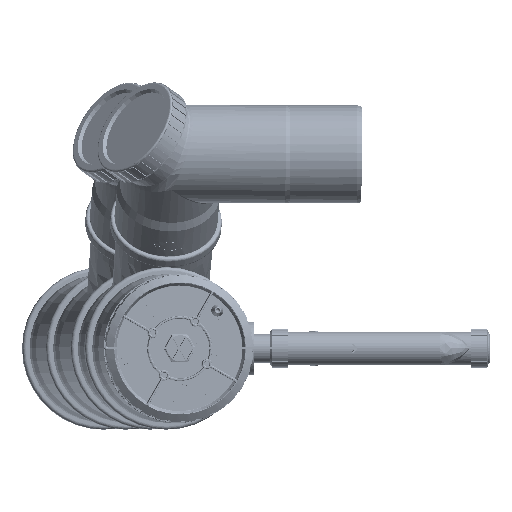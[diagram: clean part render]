
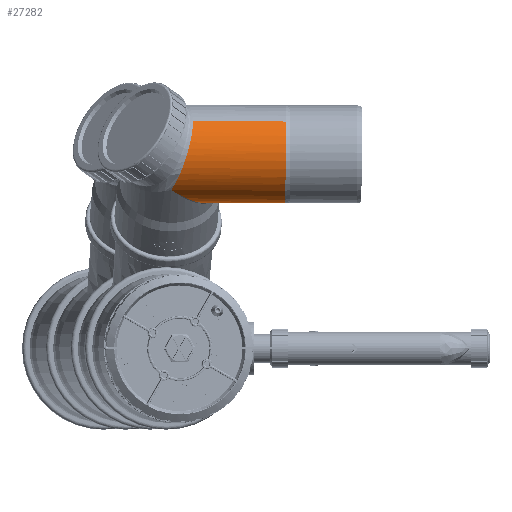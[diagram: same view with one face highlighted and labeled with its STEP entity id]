
A CAD part, left-side view. The second image highlights one B-rep face of the part: STEP entity #27282.
In plain terms, the highlighted cylindrical face has radius 55 mm (diameter 110 mm), a partial arc.
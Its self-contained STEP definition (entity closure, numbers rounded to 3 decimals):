
#14106=CARTESIAN_POINT('',(-191.802,55.,
0.));
#14111=DIRECTION('',(-1.,0.,0.));
#14112=VECTOR('',#14111,73.435);
#14113=CARTESIAN_POINT('',(-118.368,55.,0.));
#14114=LINE('5450',#14113,#14112);
#14132=CARTESIAN_POINT('',(-118.368,0.,0.));
#14133=DIRECTION('',(1.,0.,0.));
#14134=DIRECTION('',(0.,-1.,0.));
#14135=AXIS2_PLACEMENT_3D('',#14132,#14133,#14134);
#14140=CARTESIAN_POINT('',(-191.802,55.,
0.));
#14141=CARTESIAN_POINT('',(-191.803,55.,
-2.301));
#14142=CARTESIAN_POINT('',(-192.09,54.71,
-6.963));
#14143=CARTESIAN_POINT('',(-193.436,53.353,
-13.998));
#14144=CARTESIAN_POINT('',(-195.758,51.012,
-21.021));
#14145=CARTESIAN_POINT('',(-199.196,47.548,
-28.033));
#14146=CARTESIAN_POINT('',(-203.895,42.811,
-34.881));
#14147=CARTESIAN_POINT('',(-209.95,36.708,
-41.297));
#14148=CARTESIAN_POINT('',(-217.451,29.147,
-46.976));
#14149=CARTESIAN_POINT('',(-226.318,20.209,
-51.505));
#14150=CARTESIAN_POINT('',(-236.423,10.024,
-54.411));
#14151=CARTESIAN_POINT('',(-243.046,3.349,
-54.999));
#14152=CARTESIAN_POINT('',(-246.367,0.001,
-55.));
#14157=CARTESIAN_POINT('',(-222.644,-55.,
0.));
#14158=CARTESIAN_POINT('',(-222.644,-55.,
-3.02));
#14159=CARTESIAN_POINT('',(-222.857,-54.501,
-9.086));
#14160=CARTESIAN_POINT('',(-223.837,-52.241,
-18.008));
#14161=CARTESIAN_POINT('',(-225.452,-48.489,
-26.514));
#14162=CARTESIAN_POINT('',(-227.703,-43.27,
-34.393));
#14163=CARTESIAN_POINT('',(-230.562,-36.65,
-41.393));
#14164=CARTESIAN_POINT('',(-233.965,-28.732,
-47.244));
#14165=CARTESIAN_POINT('',(-237.845,-19.807,
-51.638));
#14166=CARTESIAN_POINT('',(-241.988,-10.04,
-54.387));
#14167=CARTESIAN_POINT('',(-244.992,-3.394,
-54.999));
#14168=CARTESIAN_POINT('',(-246.367,0.001,
-55.));
#14173=DIRECTION('',(-1.,0.,0.));
#14174=VECTOR('',#14173,104.276);
#14175=CARTESIAN_POINT('',(-118.368,-55.,0.));
#14176=LINE('5449',#14175,#14174);
#25927=CARTESIAN_POINT('',(-222.644,-55.,
0.));
#25928=VERTEX_POINT('',#25927);
#26065=VERTEX_POINT('',#14106);
#26066=VERTEX_POINT('',#14152);
#26071=CARTESIAN_POINT('',(-118.368,55.,0.));
#26072=CARTESIAN_POINT('',(-118.368,-55.,0.));
#26073=VERTEX_POINT('',#26071);
#26074=VERTEX_POINT('',#26072);
#27268=CARTESIAN_POINT('',(0.,0.,0.));
#27269=DIRECTION('',(1.,0.,0.));
#27270=DIRECTION('',(0.,1.,0.));
#27271=AXIS2_PLACEMENT_3D('',#27268,#27269,#27270);
#27272=CYLINDRICAL_SURFACE('3263',#27271,55.);
#27273=ORIENTED_EDGE('5446',*,*,#27259,.T.);
#27274=ORIENTED_EDGE('5450',*,*,#27234,.T.);
#27276=ORIENTED_EDGE('5336',*,*,#27275,.T.);
#27278=ORIENTED_EDGE('5342',*,*,#27277,.F.);
#27279=ORIENTED_EDGE('5449',*,*,#27228,.F.);
#27280=EDGE_LOOP('3263',(#27273,#27274,#27276,#27278,#27279));
#27281=FACE_OUTER_BOUND('3263',#27280,.F.);
#14136=CIRCLE('5446',#14135,55.);
#14153=B_SPLINE_CURVE_WITH_KNOTS('5336',3,(#14140,#14141,#14142,#14143,#14144,
#14145,#14146,#14147,#14148,#14149,#14150,#14151,#14152),.UNSPECIFIED.,.F.,.F.,(
4,1,1,1,1,1,1,1,1,1,4),(0.,0.1,0.2,0.3,0.4,0.5,0.6,0.7,0.8,
0.9,1.),.UNSPECIFIED.);
#14169=B_SPLINE_CURVE_WITH_KNOTS('5342',3,(#14157,#14158,#14159,#14160,#14161,
#14162,#14163,#14164,#14165,#14166,#14167,#14168),.UNSPECIFIED.,.F.,.F.,(4,1,1,
1,1,1,1,1,1,4),(0.,0.111,0.222,0.333,
0.444,0.556,0.667,0.778,
0.889,1.),.UNSPECIFIED.);
#27228=EDGE_CURVE('5449',#26074,#25928,#14176,.T.);
#27234=EDGE_CURVE('5450',#26073,#26065,#14114,.T.);
#27259=EDGE_CURVE('5446',#26074,#26073,#14136,.T.);
#27275=EDGE_CURVE('5336',#26065,#26066,#14153,.T.);
#27277=EDGE_CURVE('5342',#25928,#26066,#14169,.T.);
#27282=ADVANCED_FACE('3263',(#27281),#27272,.T.);
